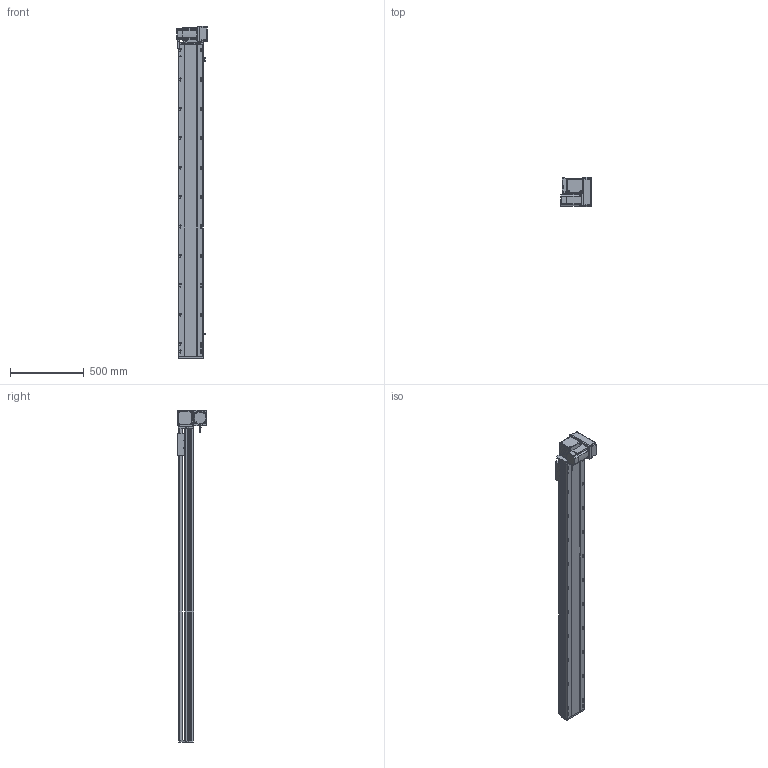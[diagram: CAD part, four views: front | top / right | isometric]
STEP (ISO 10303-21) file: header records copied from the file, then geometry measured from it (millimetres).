
FILE_DESCRIPTION (( 'STEP AP214' ), '1' );
FILE_NAME ('RTB17S-XX-1850-RM-M75-C4.STEP', '2025-12-12T02:11:42', ( '' ), ( '' ), 'SwSTEP 2.0', 'SolidWorks 2018', '' );
FILE_SCHEMA (( 'AUTOMOTIVE_DESIGN' ));
Length unit declared in the file: millimetre
Products named in the file (15): RTB22S-GY-017P^RTB17S-RM-々湍釱蚾饜-750W_RTB17S-XX-XX-RM-M75-C4; RTB17S-L-014-T20-P75--々湍釱^RTB17S-RM-々湍釱蚾饜-750W_RTB17S-XX-XX-RM-M75-C4; RTB22S-GY-018P^RTB17S-RM-々湍釱蚾饜-750W_RTB17S-XX-XX-RM-M75-C4; RTB22S-GY-005P^RTB17S-RM-々湍釱蚾饜-750W_RTB17S-XX-XX-RM-M75-C4; RTB17S-L-001-耜醱啣^RTB17S-XX-XX-RM-M75-C4; RTB17S-XX-1850-RM-M75-C4; RTB17-R-011菁釱^RTB17S-XX-XX-RM-M75-C4; RTB17S-RM-々湍釱蚾饜-750W^RTB17S-XX-XX-RM-M75-C4; RTB22S-GY-008-M75--萇儂啣^RTB17S-RM-々湍釱蚾饜-750W_RTB17S-XX-XX-RM-M75-C4; 750W萇儂^RTB17S-XX-XX-RM-M75-C4; RTB17S-賑釱^RTB17S-XX-XX-RM-M75-C4; RTH13-BL-012覜茼え俋离^RTB17S-賑釱_RTB17S-XX-XX-RM-M75-C4; EE672^RTB17S-XX-XX-RM-M75-C4; RTB17S-L-004-賑釱^RTB17S-賑釱_RTB17S-XX-XX-RM-M75-C4; RTB17S-L-007奻裔^RTB17S-XX-XX-RM-M75-C4
Assembly tree (17 placements, depth 3):
  RTB17S-XX-1850-RM-M75-C4
    RTB17-R-011菁釱^RTB17S-XX-XX-RM-M75-C4
    EE672^RTB17S-XX-XX-RM-M75-C4  x3
    RTB17S-L-001-耜醱啣^RTB17S-XX-XX-RM-M75-C4
    RTB17S-賑釱^RTB17S-XX-XX-RM-M75-C4
      RTB17S-L-004-賑釱^RTB17S-賑釱_RTB17S-XX-XX-RM-M75-C4
      RTH13-BL-012覜茼え俋离^RTB17S-賑釱_RTB17S-XX-XX-RM-M75-C4
    RTB17S-L-007奻裔^RTB17S-XX-XX-RM-M75-C4
    750W萇儂^RTB17S-XX-XX-RM-M75-C4
    RTB17S-RM-々湍釱蚾饜-750W^RTB17S-XX-XX-RM-M75-C4
      RTB17S-L-014-T20-P75--々湍釱^RTB17S-RM-々湍釱蚾饜-750W_RTB17S-XX-XX-RM-M75-C4
      RTB22S-GY-005P^RTB17S-RM-々湍釱蚾饜-750W_RTB17S-XX-XX-RM-M75-C4
      RTB22S-GY-017P^RTB17S-RM-々湍釱蚾饜-750W_RTB17S-XX-XX-RM-M75-C4  x2
      RTB22S-GY-008-M75--萇儂啣^RTB17S-RM-々湍釱蚾饜-750W_RTB17S-XX-XX-RM-M75-C4
      RTB22S-GY-018P^RTB17S-RM-々湍釱蚾饜-750W_RTB17S-XX-XX-RM-M75-C4
Bounding box: 207.4 x 200 x 2257.5 mm (x, y, z)
Volume: 17509381.9 mm3; surface area: 3116797.5 mm2
Topology: 17 solids, 17 shells, 2169 faces, 6052 edges, 3914 vertices
Faces by surface type: plane 980, cylinder 773, bspline 294, cone 110, sphere 8, torus 4
Entity records: 61942 total; most frequent: CARTESIAN_POINT 18316, ORIENTED_EDGE 8948, DIRECTION 8312, EDGE_CURVE 4474, AXIS2_PLACEMENT_3D 2934, VERTEX_POINT 2918, LINE 2444, VECTOR 2444
